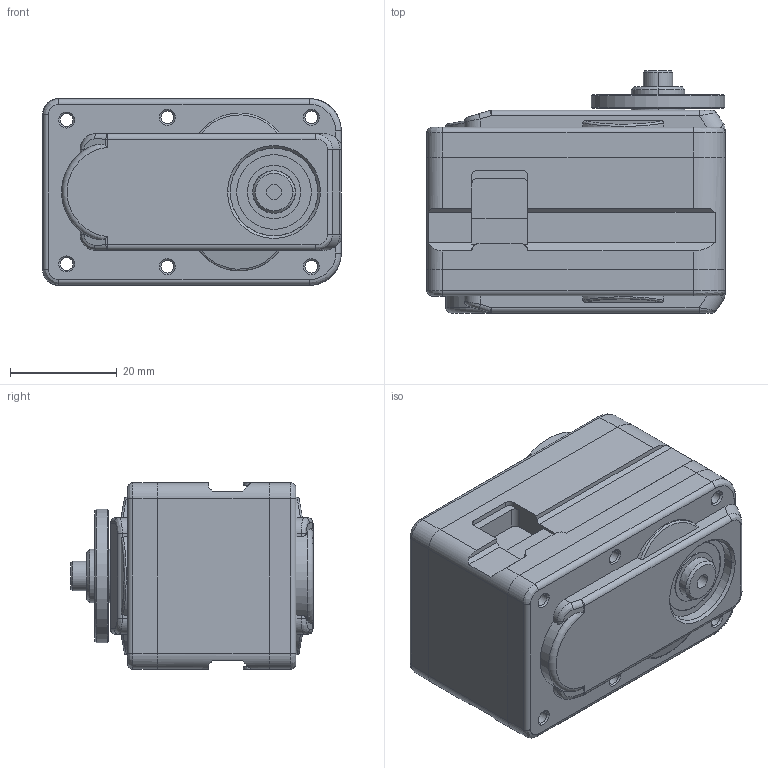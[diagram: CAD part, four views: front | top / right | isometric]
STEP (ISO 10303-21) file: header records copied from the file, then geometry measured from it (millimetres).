
FILE_DESCRIPTION((''),'2;1');
FILE_NAME('DRS040X_PUBLISH','2013-02-12T',('WOOSIK'),(''),'PRO/ENGINEER BY PARAMETRIC TECHNOLOGY CORPORATION, 2010060','PRO/ENGINEER BY PARAMETRIC TECHNOLOGY CORPORATION, 2010060','');
FILE_SCHEMA(('CONFIG_CONTROL_DESIGN'));
Length unit declared in the file: millimetre
Products named in the file (1): DRS040X_PUBLISH
Bounding box: 56 x 45.4 x 35 mm (x, y, z)
Volume: 66108.9 mm3; surface area: 13344.7 mm2
Topology: 1 solids, 3 shells, 351 faces, 859 edges, 526 vertices
Faces by surface type: cylinder 127, plane 110, cone 76, bspline 31, sphere 4, torus 3
Entity records: 12369 total; most frequent: CARTESIAN_POINT 4202, ORIENTED_EDGE 1718, DIRECTION 1647, EDGE_CURVE 859, AXIS2_PLACEMENT_3D 616, VERTEX_POINT 526, VECTOR 415, LINE 415
